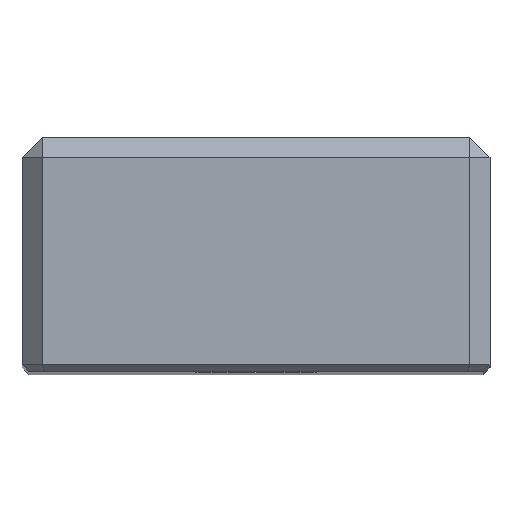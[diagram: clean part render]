
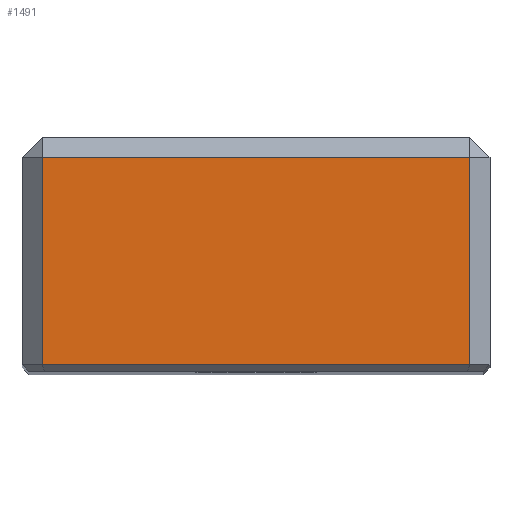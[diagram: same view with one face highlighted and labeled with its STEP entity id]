
A CAD part, top view. The second image highlights one B-rep face of the part: STEP entity #1491.
In plain terms, the highlighted planar face has unit normal (0, 0, 1).
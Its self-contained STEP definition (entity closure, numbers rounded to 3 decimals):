
#186=VERTEX_POINT(' ',#187);
#187=CARTESIAN_POINT('',(32.,-3.,0.));
#188=VERTEX_POINT(' ',#189);
#189=CARTESIAN_POINT('',(-32.,-3.,0.));
#212=VERTEX_POINT(' ',#213);
#213=CARTESIAN_POINT('',(32.,-34.,0.));
#216=VERTEX_POINT(' ',#217);
#217=CARTESIAN_POINT('',(-32.,-34.,0.));
#609=LINE('',#610,#611);
#610=CARTESIAN_POINT('',(-51.971,-3.,0.));
#611=VECTOR('',#612,1.);
#612=DIRECTION('',(1.,0.,0.));
#613=EDGE_CURVE(' ',#188,#186,#609,.T.);
#726=LINE('',#727,#728);
#727=CARTESIAN_POINT('',(32.,13.971,0.));
#728=VECTOR('',#729,1.);
#729=DIRECTION('',(0.,-1.,0.));
#730=EDGE_CURVE(' ',#186,#212,#726,.T.);
#741=LINE('',#742,#743);
#742=CARTESIAN_POINT('',(37.243,-34.,0.));
#743=VECTOR('',#744,1.);
#744=DIRECTION('',(-1.,0.,0.));
#745=EDGE_CURVE(' ',#212,#216,#741,.T.);
#746=LINE('',#747,#748);
#747=CARTESIAN_POINT('',(-32.,-51.971,0.));
#748=VECTOR('',#749,1.);
#749=DIRECTION('',(0.,1.,0.));
#750=EDGE_CURVE(' ',#216,#188,#746,.T.);
#1480=ORIENTED_EDGE('',*,*,#745,.F.);
#1481=ORIENTED_EDGE('',*,*,#730,.F.);
#1482=ORIENTED_EDGE('',*,*,#613,.F.);
#1483=ORIENTED_EDGE('',*,*,#750,.F.);
#1484=EDGE_LOOP('',(#1480,#1481,#1482,#1483));
#1485=FACE_OUTER_BOUND('',#1484,.T.);
#1486=PLANE('',#1487);
#1487=AXIS2_PLACEMENT_3D('',#1488,#1489,#1490);
#1488=CARTESIAN_POINT('',(35.,0.,0.));
#1489=DIRECTION('',(0.,0.,1.));
#1490=DIRECTION('',(-1.,0.,0.));
#1491=ADVANCED_FACE('',(#1485),#1486,.T.);
